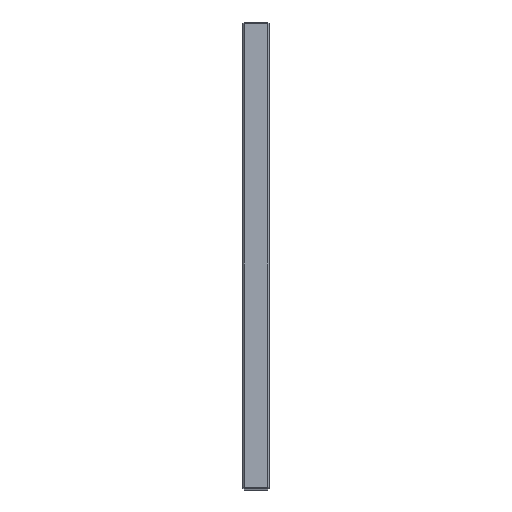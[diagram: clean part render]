
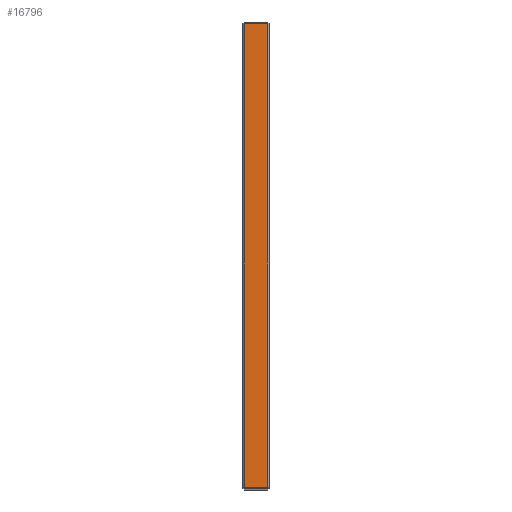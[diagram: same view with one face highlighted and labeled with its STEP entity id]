
A CAD part, top view. The second image highlights one B-rep face of the part: STEP entity #16796.
In plain terms, the highlighted planar face has unit normal (0, 0, 1).
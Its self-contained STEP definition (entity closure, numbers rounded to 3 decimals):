
#16769=AXIS2_PLACEMENT_3D('Plane Axis2P3D',#16766,#16767,#16768) ;
#16719=CARTESIAN_POINT('Vertex',(44.59,39.672,16.791)) ;
#16750=CARTESIAN_POINT('Vertex',(51.59,39.672,16.791)) ;
#16753=CARTESIAN_POINT('Line Origine',(48.09,39.672,16.791)) ;
#16766=CARTESIAN_POINT('Axis2P3D Location',(44.09,-99.828,16.791)) ;
#16771=CARTESIAN_POINT('Line Origine',(51.59,-29.828,16.791)) ;
#16775=CARTESIAN_POINT('Vertex',(51.59,-99.328,16.791)) ;
#16778=CARTESIAN_POINT('Line Origine',(44.59,-29.828,16.791)) ;
#16782=CARTESIAN_POINT('Vertex',(44.59,-99.328,16.791)) ;
#16785=CARTESIAN_POINT('Line Origine',(48.09,-99.328,16.791)) ;
#16754=DIRECTION('Vector Direction',(1.,0.,0.)) ;
#16767=DIRECTION('Axis2P3D Direction',(0.,0.,-1.)) ;
#16768=DIRECTION('Axis2P3D XDirection',(0.,1.,0.)) ;
#16772=DIRECTION('Vector Direction',(0.,1.,0.)) ;
#16779=DIRECTION('Vector Direction',(0.,1.,0.)) ;
#16786=DIRECTION('Vector Direction',(1.,0.,0.)) ;
#16755=VECTOR('Line Direction',#16754,1.) ;
#16773=VECTOR('Line Direction',#16772,1.) ;
#16780=VECTOR('Line Direction',#16779,1.) ;
#16787=VECTOR('Line Direction',#16786,1.) ;
#16791=ORIENTED_EDGE('',*,*,#16777,.T.) ;
#16792=ORIENTED_EDGE('',*,*,#16757,.F.) ;
#16793=ORIENTED_EDGE('',*,*,#16784,.T.) ;
#16794=ORIENTED_EDGE('',*,*,#16789,.T.) ;
#16796=ADVANCED_FACE('PartBody',(#16795),#16770,.F.) ;
#16757=EDGE_CURVE('',#16720,#16751,#16756,.T.) ;
#16777=EDGE_CURVE('',#16776,#16751,#16774,.T.) ;
#16784=EDGE_CURVE('',#16720,#16783,#16781,.F.) ;
#16789=EDGE_CURVE('',#16783,#16776,#16788,.T.) ;
#16790=EDGE_LOOP('',(#16791,#16792,#16793,#16794)) ;
#16795=FACE_OUTER_BOUND('',#16790,.T.) ;
#16756=LINE('Line',#16753,#16755) ;
#16774=LINE('Line',#16771,#16773) ;
#16781=LINE('Line',#16778,#16780) ;
#16788=LINE('Line',#16785,#16787) ;
#16770=PLANE('',#16769) ;
#16720=VERTEX_POINT('',#16719) ;
#16751=VERTEX_POINT('',#16750) ;
#16776=VERTEX_POINT('',#16775) ;
#16783=VERTEX_POINT('',#16782) ;
